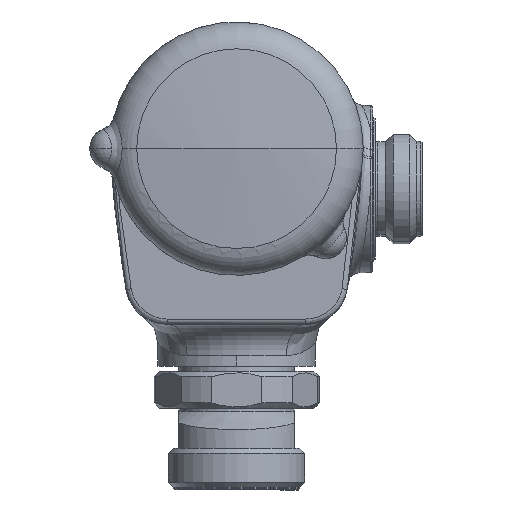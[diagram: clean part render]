
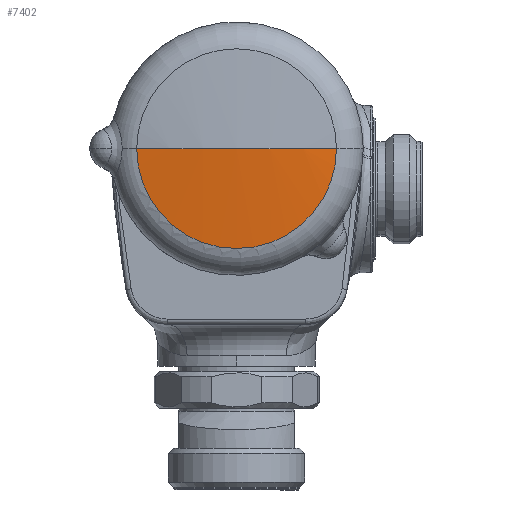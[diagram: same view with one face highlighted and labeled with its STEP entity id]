
A CAD part, left-side view. The second image highlights one B-rep face of the part: STEP entity #7402.
In plain terms, the highlighted spherical face has radius 130 mm.
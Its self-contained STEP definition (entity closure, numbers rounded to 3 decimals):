
#543 = CARTESIAN_POINT ( 'NONE',  ( -15.049, 0., 57. ) ) ;
#645 = EDGE_CURVE ( 'NONE', #886, #8339, #6406, .T. ) ;
#659 = AXIS2_PLACEMENT_3D ( 'NONE', #8471, #4237, #4084 ) ;
#735 = ORIENTED_EDGE ( 'NONE', *, *, #10294, .T. ) ;
#886 = VERTEX_POINT ( 'NONE', #6197 ) ;
#1310 = CARTESIAN_POINT ( 'NONE',  ( -15.049, 0., 57. ) ) ;
#1665 = ORIENTED_EDGE ( 'NONE', *, *, #645, .F. ) ;
#2645 = AXIS2_PLACEMENT_3D ( 'NONE', #3239, #6070, #11269 ) ;
#3074 = FACE_OUTER_BOUND ( 'NONE', #6858, .T. ) ;
#3239 = CARTESIAN_POINT ( 'NONE',  ( -143.646, 0., 57. ) ) ;
#4084 = DIRECTION ( 'NONE',  ( 0., 1., 0. ) ) ;
#4237 = DIRECTION ( 'NONE',  ( 0., 0., -1. ) ) ;
#4934 = DIRECTION ( 'NONE',  ( 1., 0., 0. ) ) ;
#5024 = CIRCLE ( 'NONE', #2645, 19.051 ) ;
#5706 = DIRECTION ( 'NONE',  ( 0., 0., 1. ) ) ;
#5861 = ORIENTED_EDGE ( 'NONE', *, *, #10632, .T. ) ;
#6070 = DIRECTION ( 'NONE',  ( -1., 0., 0. ) ) ;
#6197 = CARTESIAN_POINT ( 'NONE',  ( -145.049, 0., 57. ) ) ;
#6406 = CIRCLE ( 'NONE', #8056, 130. ) ;
#6754 = DIRECTION ( 'NONE',  ( 0., 0., -1. ) ) ;
#6858 = EDGE_LOOP ( 'NONE', ( #1665, #5861, #735 ) ) ;
#7392 = CARTESIAN_POINT ( 'NONE',  ( -143.646, -19.051, 57. ) ) ;
#7402 = ADVANCED_FACE ( 'NONE', ( #3074 ), #8467, .T. ) ;
#7739 = CARTESIAN_POINT ( 'NONE',  ( -143.646, 19.051, 57. ) ) ;
#8056 = AXIS2_PLACEMENT_3D ( 'NONE', #1310, #5706, #4934 ) ;
#8339 = VERTEX_POINT ( 'NONE', #7392 ) ;
#8454 = CIRCLE ( 'NONE', #659, 130. ) ;
#8467 = SPHERICAL_SURFACE ( 'NONE', #9793, 130. ) ;
#8471 = CARTESIAN_POINT ( 'NONE',  ( -15.049, 0., 57. ) ) ;
#9793 = AXIS2_PLACEMENT_3D ( 'NONE', #543, #6754, #11217 ) ;
#10294 = EDGE_CURVE ( 'NONE', #10548, #8339, #5024, .T. ) ;
#10548 = VERTEX_POINT ( 'NONE', #7739 ) ;
#10632 = EDGE_CURVE ( 'NONE', #886, #10548, #8454, .T. ) ;
#11217 = DIRECTION ( 'NONE',  ( 0., -1., 0. ) ) ;
#11269 = DIRECTION ( 'NONE',  ( 0., -1., 0. ) ) ;
